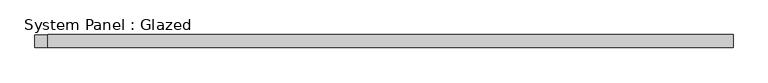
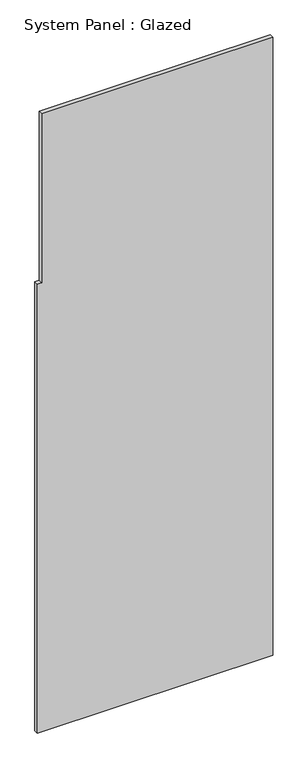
"""IFC4 building model written with IfcOpenShell, lengths in millimetres: plate geometry, System Panel : Glazed."""

from ifc_helpers import new_model, si_unit, frame, origin, place, context, project, spatial, polyline, outline, extrude, source, transform, mapped, element, save


def system_panel_glazed_280cad58(model_context):
    return source(origin(), model_context, "Body", "SweptSolid", [
        extrude(outline(polyline([(0.0, -676.1589134), (0.0, 676.1589134), (3750.0, 676.1589134), (3750.0, -651.6589134), (2725.0, -651.6589134), (2725.0, -676.1589134), (0.0, -676.1589134)])), frame((0.0, -49.5, 0.0), z_axis=(0.0, 1.0, 0.0), x_axis=(0.0, 0.0, 1.0)), (0.0, 0.0, 1.0), 25.0),
    ])


if __name__ == "__main__":
    model = new_model("IFC4")
    model_context = context("Model", 3, world=origin())
    ifc_project = project(units=[si_unit("LENGTHUNIT", "METRE", prefix="MILLI")], contexts=[model_context])
    site = spatial("IfcSite", under=ifc_project)
    building = spatial("IfcBuilding", under=site)
    placement = place(None, origin())
    system_panel_glazed_shape = system_panel_glazed_280cad58(model_context)
    element("IfcPlate", 1, ObjectType="System Panel : Glazed", at=placement, inside=building, context=model_context, shape_type="MappedRepresentation", body=[
        mapped(system_panel_glazed_shape, transform((0.0, 0.0, 0.0), x_axis=(1.0, 0.0, 0.0), y_axis=(0.0, 1.0, 0.0), z_axis=(0.0, 0.0, 1.0))),
    ])
    save(model, "model.ifc")
